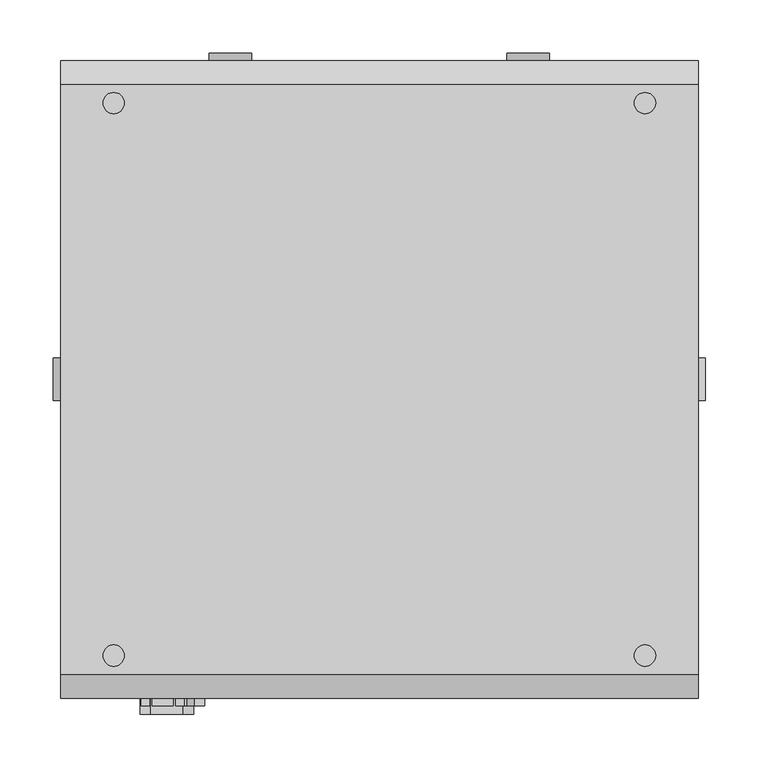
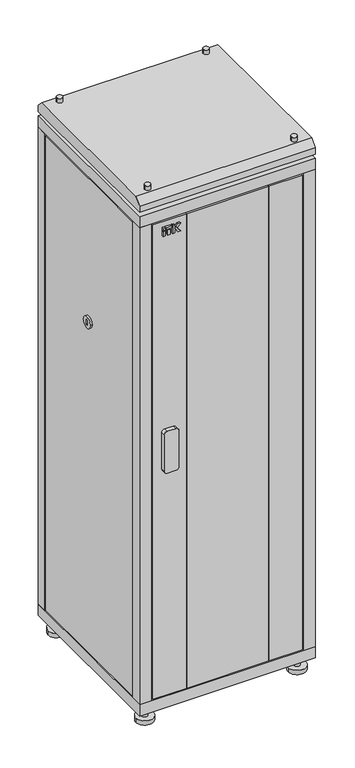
"""IFC4 building model written with IfcOpenShell, lengths in millimetres: proxy geometry, Шкафы ITK серия N_05 : LN05-38U66-G."""

from ifc_helpers import new_model, si_unit, point, frame, frame_2d, origin, origin_with_axes, place, context, project, spatial, polyline, circle_curve, trimmed, segment, composite_curve, outline, extrude, faceted_brep, source, transform, mapped, element, save
from ifc_brep_helpers import plane_surface, cylinder_surface, advanced_brep


def electrical_fixtures_70bab674(model_context):
    return source(origin(), model_context, "Body", "SolidModel", [
        extrude(outline(polyline([(-215.9746193, -307.0), (-224.197592, -307.0), (-224.197592, -300.0), (-215.9746193, -300.0), (-215.9746193, -307.0)])), frame((0.0, 0.0, 1757.0), z_axis=(0.0, 0.0, 1.0), x_axis=(1.0, 0.0, 0.0)), (0.0, 0.0, 1.0), 18.8087618),
        extrude(outline(polyline([(-199.9605777, -307.0), (-207.7053315, -307.0), (-207.7053315, -300.0), (-199.9605777, -300.0), (-199.9605777, -307.0)])), frame((0.0, 0.0, 1757.0), z_axis=(0.0, 0.0, 1.0), x_axis=(1.0, 0.0, 0.0)), (0.0, 0.0, 1.0), 18.8087618),
        extrude(outline(polyline([(-215.9746193, -307.0), (-224.197592, -307.0), (-224.197592, -300.0), (-215.9746193, -300.0), (-215.9746193, -307.0)])), frame((0.0, 0.0, 1778.4305892), z_axis=(0.0, 0.0, 1.0), x_axis=(1.0, 0.0, 0.0)), (0.0, 0.0, 1.0), 7.9794747),
        extrude(outline(polyline([(1757.0, -191.5184175), (1757.0, -183.7669278), (1768.0271455, -183.7669278), (1768.0271455, -180.8031229), (1757.0, -173.6420108), (1757.0, -164.197592), (1771.7278745, -174.8980192), (1786.410064, -164.197592), (1786.410064, -173.6420108), (1775.3829184, -180.8031229), (1775.3829184, -183.7669278), (1786.410064, -183.7669278), (1786.410064, -191.5184175), (1757.0, -191.5184175)])), frame((0.0, -307.0, 0.0), z_axis=(0.0, 1.0, 0.0), x_axis=(0.0, 0.0, 1.0)), (0.0, 0.0, 1.0), 7.0),
        extrude(outline(polyline([(-194.0851324, -307.0), (-213.5807768, -307.0), (-213.5807768, -300.0), (-194.0851324, -300.0), (-194.0851324, -307.0)])), frame((0.0, 0.0, 1778.4305892), z_axis=(0.0, 0.0, 1.0), x_axis=(1.0, 0.0, 0.0)), (0.0, 0.0, 1.0), 7.9794747),
        extrude(outline(composite_curve([segment(polyline([(1056.0, -185.0), (1056.0, -215.0)]), True, "CONTINUOUS"), segment(trimmed(circle_curve(frame_2d((1046.0, -215.0)), 10.0), [point((1056.0, -215.0))], [point((1046.0, -225.0))], False, "CARTESIAN"), True, "CONTINUOUS"), segment(polyline([(1046.0, -225.0), (916.0, -225.0)]), True, "CONTINUOUS"), segment(trimmed(circle_curve(frame_2d((916.0, -215.0)), 10.0), [point((916.0, -225.0))], [point((906.0, -215.0))], False, "CARTESIAN"), True, "CONTINUOUS"), segment(polyline([(906.0, -215.0), (906.0, -185.0)]), True, "CONTINUOUS"), segment(trimmed(circle_curve(frame_2d((916.0, -185.0)), 10.0), [point((906.0, -185.0))], [point((916.0, -175.0))], False, "CARTESIAN"), True, "CONTINUOUS"), segment(polyline([(916.0, -175.0), (1046.0, -175.0)]), True, "CONTINUOUS"), segment(trimmed(circle_curve(frame_2d((1046.0, -185.0)), 10.0), [point((1046.0, -175.0))], [point((1056.0, -185.0))], False, "CARTESIAN"), True, "CONTINUOUS")], self_intersect=False)), frame((0.0, -315.0, 0.0), z_axis=(0.0, 1.0, 0.0), x_axis=(0.0, 0.0, 1.0)), (0.0, 0.0, 1.0), 15.0),
        extrude(outline(polyline([(140.0, -280.0), (140.0, -300.0), (-140.0, -300.0), (-140.0, -280.0), (140.0, -280.0)])), frame((0.0, 0.0, 95.0), z_axis=(0.0, 0.0, 1.0), x_axis=(1.0, 0.0, 0.0)), (0.0, 0.0, 1.0), 1712.0),
        extrude(outline(polyline([(255.0, -280.0), (255.0, -300.0), (140.0, -300.0), (140.0, -280.0), (235.0, -280.0), (235.0, -265.0), (245.0, -265.0), (245.0, -280.0), (255.0, -280.0)])), frame((0.0, 0.0, 95.0), z_axis=(0.0, 0.0, 1.0), x_axis=(1.0, 0.0, 0.0)), (0.0, 0.0, 1.0), 1712.0),
        extrude(outline(polyline([(-140.0, -300.0), (-255.0, -300.0), (-255.0, -280.0), (-245.0, -280.0), (-245.0, -265.0), (-235.0, -265.0), (-235.0, -280.0), (-140.0, -280.0), (-140.0, -300.0)])), frame((0.0, 0.0, 95.0), z_axis=(0.0, 0.0, 1.0), x_axis=(1.0, 0.0, 0.0)), (0.0, 0.0, 1.0), 1712.0),
        extrude(outline(composite_curve([segment(trimmed(circle_curve(frame_2d((-260.0, 260.0)), 10.0), [point((-250.0, 260.0))], [point((-270.0, 260.0))], False, "CARTESIAN"), True, "CONTINUOUS"), segment(trimmed(circle_curve(frame_2d((-260.0, 260.0)), 10.0), [point((-270.0, 260.0))], [point((-250.0, 260.0))], False, "CARTESIAN"), True, "CONTINUOUS")], self_intersect=False)), frame((0.0, 0.0, 15.0), z_axis=(0.0, 0.0, 1.0), x_axis=(1.0, 0.0, 0.0)), (0.0, 0.0, 1.0), 35.0),
        extrude(outline(composite_curve([segment(trimmed(circle_curve(frame_2d((260.0, 260.0)), 10.0), [point((270.0, 260.0))], [point((250.0, 260.0))], False, "CARTESIAN"), True, "CONTINUOUS"), segment(trimmed(circle_curve(frame_2d((260.0, 260.0)), 10.0), [point((250.0, 260.0))], [point((270.0, 260.0))], False, "CARTESIAN"), True, "CONTINUOUS")], self_intersect=False)), frame((0.0, 0.0, 15.0), z_axis=(0.0, 0.0, 1.0), x_axis=(1.0, 0.0, 0.0)), (0.0, 0.0, 1.0), 35.0),
        extrude(outline(composite_curve([segment(trimmed(circle_curve(frame_2d((-260.0, -260.0)), 10.0), [point((-250.0, -260.0))], [point((-270.0, -260.0))], False, "CARTESIAN"), True, "CONTINUOUS"), segment(trimmed(circle_curve(frame_2d((-260.0, -260.0)), 10.0), [point((-270.0, -260.0))], [point((-250.0, -260.0))], False, "CARTESIAN"), True, "CONTINUOUS")], self_intersect=False)), frame((0.0, 0.0, 15.0), z_axis=(0.0, 0.0, 1.0), x_axis=(1.0, 0.0, 0.0)), (0.0, 0.0, 1.0), 35.0),
        extrude(outline(composite_curve([segment(trimmed(circle_curve(frame_2d((260.0, -260.0)), 10.0), [point((270.0, -260.0))], [point((250.0, -260.0))], False, "CARTESIAN"), True, "CONTINUOUS"), segment(trimmed(circle_curve(frame_2d((260.0, -260.0)), 10.0), [point((250.0, -260.0))], [point((270.0, -260.0))], False, "CARTESIAN"), True, "CONTINUOUS")], self_intersect=False)), frame((0.0, 0.0, 15.0), z_axis=(0.0, 0.0, 1.0), x_axis=(1.0, 0.0, 0.0)), (0.0, 0.0, 1.0), 35.0),
        extrude(outline(composite_curve([segment(trimmed(circle_curve(frame_2d((-260.0, 260.0)), 30.0), [point((-230.0, 260.0))], [point((-290.0, 260.0))], False, "CARTESIAN"), True, "CONTINUOUS"), segment(trimmed(circle_curve(frame_2d((-260.0, 260.0)), 30.0), [point((-290.0, 260.0))], [point((-230.0, 260.0))], False, "CARTESIAN"), True, "CONTINUOUS")], self_intersect=False)), origin_with_axes(), (0.0, 0.0, 1.0), 15.0),
        extrude(outline(composite_curve([segment(trimmed(circle_curve(frame_2d((260.0, 260.0)), 30.0), [point((290.0, 260.0))], [point((230.0, 260.0))], False, "CARTESIAN"), True, "CONTINUOUS"), segment(trimmed(circle_curve(frame_2d((260.0, 260.0)), 30.0), [point((230.0, 260.0))], [point((290.0, 260.0))], False, "CARTESIAN"), True, "CONTINUOUS")], self_intersect=False)), origin_with_axes(), (0.0, 0.0, 1.0), 15.0),
        extrude(outline(composite_curve([segment(trimmed(circle_curve(frame_2d((-260.0, -260.0)), 30.0), [point((-230.0, -260.0))], [point((-290.0, -260.0))], False, "CARTESIAN"), True, "CONTINUOUS"), segment(trimmed(circle_curve(frame_2d((-260.0, -260.0)), 30.0), [point((-290.0, -260.0))], [point((-230.0, -260.0))], False, "CARTESIAN"), True, "CONTINUOUS")], self_intersect=False)), origin_with_axes(), (0.0, 0.0, 1.0), 15.0),
        extrude(outline(composite_curve([segment(trimmed(circle_curve(frame_2d((260.0, -260.0)), 30.0), [point((290.0, -260.0))], [point((230.0, -260.0))], False, "CARTESIAN"), True, "CONTINUOUS"), segment(trimmed(circle_curve(frame_2d((260.0, -260.0)), 30.0), [point((230.0, -260.0))], [point((290.0, -260.0))], False, "CARTESIAN"), True, "CONTINUOUS")], self_intersect=False)), origin_with_axes(), (0.0, 0.0, 1.0), 15.0),
        advanced_brep(
        [(260.0, 260.0, 1927.0), (240.0, 260.0, 1927.0), (260.0, -260.0, 1927.0), (240.0, -260.0, 1927.0), (-240.0, 260.0, 1927.0), (-260.0, 260.0, 1927.0), (-240.0, -260.0, 1927.0), (-260.0, -260.0, 1927.0), (260.0, 260.0, 1852.0), (240.0, 260.0, 1852.0), (260.0, -260.0, 1852.0), (240.0, -260.0, 1852.0), (-240.0, 260.0, 1852.0), (-260.0, 260.0, 1852.0), (-240.0, -260.0, 1852.0), (-260.0, -260.0, 1852.0), (260.0, 260.0, 1912.0), (240.0, 260.0, 1912.0), (240.0, 260.0, 1867.0), (260.0, 260.0, 1867.0), (260.0, -260.0, 1912.0), (240.0, -260.0, 1912.0), (240.0, -260.0, 1867.0), (260.0, -260.0, 1867.0), (-240.0, 260.0, 1912.0), (-260.0, 260.0, 1912.0), (-260.0, 260.0, 1867.0), (-240.0, 260.0, 1867.0), (-240.0, -260.0, 1912.0), (-260.0, -260.0, 1912.0), (-260.0, -260.0, 1867.0), (-240.0, -260.0, 1867.0), (300.0, 277.5, 1912.0), (300.0, -277.5, 1912.0), (300.0, -300.0, 1889.5), (300.0, -300.0, 1867.0), (300.0, 300.0, 1867.0), (300.0, 300.0, 1889.5), (-300.0, 277.5, 1912.0), (-300.0, 300.0, 1889.5), (-300.0, 300.0, 1867.0), (-300.0, -300.0, 1867.0), (-300.0, -300.0, 1889.5), (-300.0, -277.5, 1912.0)],
        [
            (0, 1, circle_curve(frame((250.0, 260.0, 1927.0), z_axis=(0.0, 0.0, 1.0), x_axis=(-1.0, 0.0, 0.0)), 10.0)),
            (1, 0, circle_curve(frame((250.0, 260.0, 1927.0), z_axis=(0.0, 0.0, 1.0), x_axis=(-1.0, 0.0, 0.0)), 10.0)),
            (2, 3, circle_curve(frame((250.0, -260.0, 1927.0), z_axis=(0.0, 0.0, 1.0), x_axis=(-1.0, 0.0, 0.0)), 10.0)),
            (3, 2, circle_curve(frame((250.0, -260.0, 1927.0), z_axis=(0.0, 0.0, 1.0), x_axis=(-1.0, 0.0, 0.0)), 10.0)),
            (4, 5, circle_curve(frame((-250.0, 260.0, 1927.0), z_axis=(0.0, 0.0, 1.0), x_axis=(-1.0, 0.0, 0.0)), 10.0)),
            (5, 4, circle_curve(frame((-250.0, 260.0, 1927.0), z_axis=(0.0, 0.0, 1.0), x_axis=(-1.0, 0.0, 0.0)), 10.0)),
            (6, 7, circle_curve(frame((-250.0, -260.0, 1927.0), z_axis=(0.0, 0.0, 1.0), x_axis=(-1.0, 0.0, 0.0)), 10.0)),
            (7, 6, circle_curve(frame((-250.0, -260.0, 1927.0), z_axis=(0.0, 0.0, 1.0), x_axis=(-1.0, 0.0, 0.0)), 10.0)),
            (8, 9, circle_curve(frame((250.0, 260.0, 1852.0), z_axis=(0.0, 0.0, -1.0), x_axis=(-1.0, 0.0, 0.0)), 10.0)),
            (9, 8, circle_curve(frame((250.0, 260.0, 1852.0), z_axis=(0.0, 0.0, -1.0), x_axis=(-1.0, 0.0, 0.0)), 10.0)),
            (10, 11, circle_curve(frame((250.0, -260.0, 1852.0), z_axis=(0.0, 0.0, -1.0), x_axis=(-1.0, 0.0, 0.0)), 10.0)),
            (11, 10, circle_curve(frame((250.0, -260.0, 1852.0), z_axis=(0.0, 0.0, -1.0), x_axis=(-1.0, 0.0, 0.0)), 10.0)),
            (12, 13, circle_curve(frame((-250.0, 260.0, 1852.0), z_axis=(0.0, 0.0, -1.0), x_axis=(-1.0, 0.0, 0.0)), 10.0)),
            (13, 12, circle_curve(frame((-250.0, 260.0, 1852.0), z_axis=(0.0, 0.0, -1.0), x_axis=(-1.0, 0.0, 0.0)), 10.0)),
            (14, 15, circle_curve(frame((-250.0, -260.0, 1852.0), z_axis=(0.0, 0.0, -1.0), x_axis=(-1.0, 0.0, 0.0)), 10.0)),
            (15, 14, circle_curve(frame((-250.0, -260.0, 1852.0), z_axis=(0.0, 0.0, -1.0), x_axis=(-1.0, 0.0, 0.0)), 10.0)),
            (0, 16),
            (16, 17, circle_curve(frame((250.0, 260.0, 1912.0), z_axis=(0.0, 0.0, 1.0), x_axis=(-1.0, 0.0, 0.0)), 10.0)),
            (17, 1),
            (9, 18),
            (18, 19, circle_curve(frame((250.0, 260.0, 1867.0), z_axis=(0.0, 0.0, -1.0), x_axis=(-1.0, 0.0, 0.0)), 10.0)),
            (19, 8),
            (17, 16, circle_curve(frame((250.0, 260.0, 1912.0), z_axis=(0.0, 0.0, 1.0), x_axis=(-1.0, 0.0, 0.0)), 10.0)),
            (19, 18, circle_curve(frame((250.0, 260.0, 1867.0), z_axis=(0.0, 0.0, -1.0), x_axis=(-1.0, 0.0, 0.0)), 10.0)),
            (2, 20),
            (20, 21, circle_curve(frame((250.0, -260.0, 1912.0), z_axis=(0.0, 0.0, 1.0), x_axis=(-1.0, 0.0, 0.0)), 10.0)),
            (21, 3),
            (11, 22),
            (22, 23, circle_curve(frame((250.0, -260.0, 1867.0), z_axis=(0.0, 0.0, -1.0), x_axis=(-1.0, 0.0, 0.0)), 10.0)),
            (23, 10),
            (21, 20, circle_curve(frame((250.0, -260.0, 1912.0), z_axis=(0.0, 0.0, 1.0), x_axis=(-1.0, 0.0, 0.0)), 10.0)),
            (23, 22, circle_curve(frame((250.0, -260.0, 1867.0), z_axis=(0.0, 0.0, -1.0), x_axis=(-1.0, 0.0, 0.0)), 10.0)),
            (4, 24),
            (24, 25, circle_curve(frame((-250.0, 260.0, 1912.0), z_axis=(0.0, 0.0, 1.0), x_axis=(-1.0, 0.0, 0.0)), 10.0)),
            (25, 5),
            (13, 26),
            (26, 27, circle_curve(frame((-250.0, 260.0, 1867.0), z_axis=(0.0, 0.0, -1.0), x_axis=(-1.0, 0.0, 0.0)), 10.0)),
            (27, 12),
            (25, 24, circle_curve(frame((-250.0, 260.0, 1912.0), z_axis=(0.0, 0.0, 1.0), x_axis=(-1.0, 0.0, 0.0)), 10.0)),
            (27, 26, circle_curve(frame((-250.0, 260.0, 1867.0), z_axis=(0.0, 0.0, -1.0), x_axis=(-1.0, 0.0, 0.0)), 10.0)),
            (6, 28),
            (28, 29, circle_curve(frame((-250.0, -260.0, 1912.0), z_axis=(0.0, 0.0, 1.0), x_axis=(-1.0, 0.0, 0.0)), 10.0)),
            (29, 7),
            (15, 30),
            (30, 31, circle_curve(frame((-250.0, -260.0, 1867.0), z_axis=(0.0, 0.0, -1.0), x_axis=(-1.0, 0.0, 0.0)), 10.0)),
            (31, 14),
            (29, 28, circle_curve(frame((-250.0, -260.0, 1912.0), z_axis=(0.0, 0.0, 1.0), x_axis=(-1.0, 0.0, 0.0)), 10.0)),
            (31, 30, circle_curve(frame((-250.0, -260.0, 1867.0), z_axis=(0.0, 0.0, -1.0), x_axis=(-1.0, 0.0, 0.0)), 10.0)),
            (32, 33),
            (33, 34),
            (34, 35),
            (35, 36),
            (36, 37),
            (37, 32),
            (38, 39),
            (39, 40),
            (40, 41),
            (41, 42),
            (42, 43),
            (43, 38),
            (32, 38),
            (43, 33),
            (42, 34),
            (41, 35),
            (40, 36),
            (39, 37),
        ],
        [
            plane_surface(frame((240.0, 260.0, 1927.0), z_axis=(0.0, 0.0, 1.0), x_axis=(0.0, -1.0, 0.0))),
            plane_surface(frame((240.0, 260.0, 1852.0), z_axis=(0.0, 0.0, -1.0), x_axis=(0.0, 1.0, 0.0))),
            cylinder_surface(frame((250.0, 260.0, 1852.0), z_axis=(0.0, 0.0, 1.0), x_axis=(-1.0, 0.0, 0.0)), 10.0),
            cylinder_surface(frame((250.0, -260.0, 1710.0), z_axis=(0.0, 0.0, 1.0), x_axis=(-1.0, 0.0, 0.0)), 10.0),
            cylinder_surface(frame((-250.0, 260.0, 1710.0), z_axis=(0.0, 0.0, 1.0), x_axis=(-1.0, 0.0, 0.0)), 10.0),
            cylinder_surface(frame((-250.0, -260.0, 1710.0), z_axis=(0.0, 0.0, 1.0), x_axis=(-1.0, 0.0, 0.0)), 10.0),
            plane_surface(frame((300.0, -277.5, 1912.0), z_axis=(1.0, 0.0, 0.0), x_axis=(0.0, -1.0, 0.0))),
            plane_surface(frame((-300.0, -277.5, 1912.0), z_axis=(-1.0, 0.0, 0.0), x_axis=(0.0, 1.0, 0.0))),
            plane_surface(frame((300.0, 277.5, 1912.0), z_axis=(0.0, 0.0, 1.0), x_axis=(-1.0, 0.0, 0.0))),
            plane_surface(frame((300.0, -277.5, 1912.0), z_axis=(0.0, -0.7071067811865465, 0.7071067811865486), x_axis=(-1.0, 0.0, 0.0))),
            plane_surface(frame((300.0, -300.0, 1889.5), z_axis=(0.0, -1.0, 0.0), x_axis=(-1.0, 0.0, 0.0))),
            plane_surface(frame((300.0, -300.0, 1867.0), z_axis=(0.0, 0.0, -1.0), x_axis=(-1.0, 0.0, 0.0))),
            plane_surface(frame((300.0, 300.0, 1867.0), z_axis=(0.0, 1.0, 0.0), x_axis=(-1.0, 0.0, 0.0))),
            plane_surface(frame((300.0, 300.0, 1889.5), z_axis=(0.0, 0.7071067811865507, 0.7071067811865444), x_axis=(-1.0, 0.0, 0.0))),
        ],
        [
            (0, [[1, 2]]),
            (0, [[3, 4]]),
            (0, [[5, 6]]),
            (0, [[7, 8]]),
            (1, [[9, 10]]),
            (1, [[11, 12]]),
            (1, [[13, 14]]),
            (1, [[15, 16]]),
            (2, [[-1, 17, 18, 19]]),
            (2, [[-10, 20, 21, 22]]),
            (2, [[-2, -19, 23, -17]]),
            (2, [[-9, -22, 24, -20]]),
            (3, [[-3, 25, 26, 27]]),
            (3, [[-12, 28, 29, 30]]),
            (3, [[-4, -27, 31, -25]]),
            (3, [[-11, -30, 32, -28]]),
            (4, [[-5, 33, 34, 35]]),
            (4, [[-14, 36, 37, 38]]),
            (4, [[-6, -35, 39, -33]]),
            (4, [[-13, -38, 40, -36]]),
            (5, [[-7, 41, 42, 43]]),
            (5, [[-16, 44, 45, 46]]),
            (5, [[-8, -43, 47, -41]]),
            (5, [[-15, -46, 48, -44]]),
            (6, [[49, 50, 51, 52, 53, 54]]),
            (7, [[55, 56, 57, 58, 59, 60]]),
            (8, [[-49, 61, -60, 62], [-18, -23], [-26, -31], [-34, -39], [-42, -47]]),
            (9, [[-50, -62, -59, 63]]),
            (10, [[-51, -63, -58, 64]]),
            (11, [[-52, -64, -57, 65], [-21, -24], [-29, -32], [-37, -40], [-45, -48]]),
            (12, [[-53, -65, -56, 66]]),
            (13, [[-54, -66, -55, -61]]),
        ],
    ),
        extrude(outline(polyline([(260.0, 260.0), (260.0, 245.0), (290.0, 245.0), (290.0, -245.0), (260.0, -245.0), (260.0, -260.0), (245.0, -260.0), (245.0, -280.0), (-245.0, -280.0), (-245.0, -260.0), (-260.0, -260.0), (-260.0, -245.0), (-290.0, -245.0), (-290.0, 245.0), (-260.0, 245.0), (-260.0, 260.0), (-245.0, 260.0), (-245.0, 290.0), (245.0, 290.0), (245.0, 260.0), (260.0, 260.0)])), frame((0.0, 0.0, 90.0), z_axis=(0.0, 0.0, 1.0), x_axis=(1.0, 0.0, 0.0)), (0.0, 0.0, 1.0), 5.0),
        extrude(outline(polyline([(260.0, 260.0), (260.0, 245.0), (290.0, 245.0), (290.0, -245.0), (260.0, -245.0), (260.0, -260.0), (245.0, -260.0), (245.0, -280.0), (-245.0, -280.0), (-245.0, -260.0), (-260.0, -260.0), (-260.0, -245.0), (-290.0, -245.0), (-290.0, 245.0), (-260.0, 245.0), (-260.0, 260.0), (-245.0, 260.0), (-245.0, 290.0), (245.0, 290.0), (245.0, 260.0), (260.0, 260.0)])), frame((0.0, 0.0, 1807.0), z_axis=(0.0, 0.0, 1.0), x_axis=(1.0, 0.0, 0.0)), (0.0, 0.0, 1.0), 5.0),
        extrude(outline(polyline([(300.0, -300.0), (-300.0, -300.0), (-300.0, 300.0), (300.0, 300.0), (300.0, -300.0)])), frame((0.0, 0.0, 1812.0), z_axis=(0.0, 0.0, 1.0), x_axis=(1.0, 0.0, 0.0)), (0.0, 0.0, 1.0), 40.0),
        extrude(outline(polyline([(300.0, -300.0), (-300.0, -300.0), (-300.0, 300.0), (300.0, 300.0), (300.0, -300.0)])), frame((0.0, 0.0, 50.0), z_axis=(0.0, 0.0, 1.0), x_axis=(1.0, 0.0, 0.0)), (0.0, 0.0, 1.0), 40.0),
        extrude(outline(composite_curve([segment(trimmed(circle_curve(frame_2d((951.0, 140.0)), 20.0), [point((951.0, 160.0))], [point((951.0, 120.0))], False, "CARTESIAN"), True, "CONTINUOUS"), segment(trimmed(circle_curve(frame_2d((951.0, 140.0)), 20.0), [point((951.0, 120.0))], [point((951.0, 160.0))], False, "CARTESIAN"), True, "CONTINUOUS")], self_intersect=False), holes=[polyline([(942.7814397, 137.0), (959.2185603, 137.0), (959.2185603, 143.0), (942.7814397, 143.0), (942.7814397, 137.0)])]), frame((0.0, 300.0, 0.0), z_axis=(0.0, 1.0, 0.0), x_axis=(0.0, 0.0, 1.0)), (0.0, 0.0, 1.0), 7.0),
        extrude(outline(composite_curve([segment(trimmed(circle_curve(frame_2d((951.0, -140.0)), 20.0), [point((951.0, -120.0))], [point((951.0, -160.0))], False, "CARTESIAN"), True, "CONTINUOUS"), segment(trimmed(circle_curve(frame_2d((951.0, -140.0)), 20.0), [point((951.0, -160.0))], [point((951.0, -120.0))], False, "CARTESIAN"), True, "CONTINUOUS")], self_intersect=False), holes=[polyline([(942.7814397, -143.0), (959.2185603, -143.0), (959.2185603, -137.0), (942.7814397, -137.0), (942.7814397, -143.0)])]), frame((0.0, 300.0, 0.0), z_axis=(0.0, 1.0, 0.0), x_axis=(0.0, 0.0, 1.0)), (0.0, 0.0, 1.0), 7.0),
        faceted_brep([(255.0, 300.0, 1807.0), (-255.0, 300.0, 1807.0), (-255.0, 270.0, 1807.0), (-245.0, 270.0, 1807.0), (-245.0, 290.0, 1807.0), (245.0, 290.0, 1807.0), (245.0, 270.0, 1807.0), (255.0, 270.0, 1807.0), (255.0, 300.0, 95.0), (255.0, 270.0, 95.0), (245.0, 270.0, 95.0), (245.0, 290.0, 95.0), (-245.0, 290.0, 95.0), (-245.0, 270.0, 95.0), (-255.0, 270.0, 95.0), (-255.0, 300.0, 95.0), (255.0, 300.0, 1634.5265979), (-255.0, 300.0, 1634.5265979), (175.0, 300.0, 1682.0), (175.0, 300.0, 1762.0), (-175.0, 300.0, 1762.0), (-175.0, 300.0, 1682.0), (-255.0, 300.0, 267.4734021), (255.0, 300.0, 267.4734021), (175.0, 300.0, 220.0), (-175.0, 300.0, 220.0), (-175.0, 300.0, 140.0), (175.0, 300.0, 140.0), (255.0, 300.0, 1629.4734021), (255.0, 300.0, 272.5265979), (-255.0, 300.0, 272.5265979), (-255.0, 300.0, 1629.4734021), (-170.0, 300.0, 215.0), (170.0, 300.0, 215.0), (170.0, 300.0, 145.0), (-170.0, 300.0, 145.0), (-170.0, 300.0, 1687.0), (-170.0, 300.0, 1757.0), (170.0, 300.0, 1757.0), (170.0, 300.0, 1687.0), (-255.0, 293.0, 1634.5265979), (-255.0, 293.0, 1629.4734021), (-255.0, 293.0, 272.5265979), (-255.0, 293.0, 267.4734021), (255.0, 293.0, 267.4734021), (255.0, 293.0, 272.5265979), (255.0, 293.0, 1629.4734021), (255.0, 293.0, 1634.5265979), (175.0, 293.0, 220.0), (175.0, 293.0, 140.0), (-175.0, 293.0, 140.0), (-175.0, 293.0, 220.0), (-170.0, 293.0, 215.0), (-170.0, 293.0, 145.0), (170.0, 293.0, 145.0), (170.0, 293.0, 215.0), (175.0, 293.0, 1682.0), (-175.0, 293.0, 1682.0), (-175.0, 293.0, 1762.0), (175.0, 293.0, 1762.0), (-170.0, 293.0, 1687.0), (170.0, 293.0, 1687.0), (170.0, 293.0, 1757.0), (-170.0, 293.0, 1757.0)], [[[0, 1, 2, 3, 4, 5, 6, 7]], [[8, 9, 10, 11, 12, 13, 14, 15]], [[1, 0, 16, 17], [18, 19, 20, 21]], [[8, 15, 22, 23], [24, 25, 26, 27]], [[28, 29, 30, 31]], [[32, 33, 34, 35]], [[36, 37, 38, 39]], [[2, 1, 17, 40, 41, 31, 30, 42, 43, 22, 15, 14]], [[3, 2, 14, 13]], [[4, 3, 13, 12]], [[5, 4, 12, 11]], [[6, 5, 11, 10]], [[7, 6, 10, 9]], [[0, 7, 9, 8, 23, 44, 45, 29, 28, 46, 47, 16]], [[44, 43, 42, 45]], [[48, 49, 50, 51], [52, 53, 54, 55]], [[46, 41, 40, 47]], [[56, 57, 58, 59], [60, 61, 62, 63]], [[45, 42, 30, 29]], [[43, 44, 23, 22]], [[48, 51, 25, 24]], [[51, 50, 26, 25]], [[50, 49, 27, 26]], [[49, 48, 24, 27]], [[52, 55, 33, 32]], [[55, 54, 34, 33]], [[54, 53, 35, 34]], [[53, 52, 32, 35]], [[47, 40, 17, 16]], [[41, 46, 28, 31]], [[56, 59, 19, 18]], [[59, 58, 20, 19]], [[58, 57, 21, 20]], [[57, 56, 18, 21]], [[60, 63, 37, 36]], [[63, 62, 38, 37]], [[62, 61, 39, 38]], [[61, 60, 36, 39]]]),
        extrude(outline(composite_curve([segment(trimmed(circle_curve(frame_2d((0.0, 1291.3333333)), 20.0), [point((-20.0, 1291.3333333))], [point((20.0, 1291.3333333))], False, "CARTESIAN"), True, "CONTINUOUS"), segment(trimmed(circle_curve(frame_2d((0.0, 1291.3333333)), 20.0), [point((20.0, 1291.3333333))], [point((-20.0, 1291.3333333))], False, "CARTESIAN"), True, "CONTINUOUS")], self_intersect=False), holes=[polyline([(3.0, 1283.114773), (3.0, 1299.5518937), (-3.0, 1299.5518937), (-3.0, 1283.114773), (3.0, 1283.114773)])]), frame((300.0, 0.0, 0.0), z_axis=(1.0, 0.0, 0.0), x_axis=(0.0, 1.0, 0.0)), (0.0, 0.0, 1.0), 7.0),
        extrude(outline(composite_curve([segment(trimmed(circle_curve(frame_2d((0.0, 1291.3333333)), 20.0), [point((20.0, 1291.3333333))], [point((-20.0, 1291.3333333))], False, "CARTESIAN"), True, "CONTINUOUS"), segment(trimmed(circle_curve(frame_2d((0.0, 1291.3333333)), 20.0), [point((-20.0, 1291.3333333))], [point((20.0, 1291.3333333))], False, "CARTESIAN"), True, "CONTINUOUS")], self_intersect=False), holes=[polyline([(-3.0, 1283.114773), (3.0, 1283.114773), (3.0, 1299.5518937), (-3.0, 1299.5518937), (-3.0, 1283.114773)])]), frame((-307.0, 0.0, 0.0), z_axis=(1.0, 0.0, 0.0), x_axis=(0.0, 1.0, 0.0)), (0.0, 0.0, 1.0), 7.0),
        extrude(outline(polyline([(-270.0, 255.0), (-270.0, 245.0), (-289.9803177, 245.0), (-289.9803177, -245.0), (-269.9803177, -245.0), (-269.9803177, -255.0), (-300.0, -255.0), (-300.0, 255.0), (-270.0, 255.0)])), frame((0.0, 0.0, 95.0), z_axis=(0.0, 0.0, 1.0), x_axis=(1.0, 0.0, 0.0)), (0.0, 0.0, 1.0), 1712.0),
        extrude(outline(polyline([(269.9803177, 255.0), (300.0, 255.0), (300.0, -255.0), (269.9803177, -255.0), (269.9803177, -245.0), (289.9803177, -245.0), (289.9803177, 245.0), (269.9803177, 245.0), (269.9803177, 255.0)])), frame((0.0, 0.0, 95.0), z_axis=(0.0, 0.0, 1.0), x_axis=(1.0, 0.0, 0.0)), (0.0, 0.0, 1.0), 1712.0),
        extrude(outline(polyline([(-270.0, -260.0), (-270.0, -245.0), (-260.0, -245.0), (-260.0, -260.0), (-245.0, -260.0), (-245.0, -280.0), (-260.0, -280.0), (-260.0, -300.0), (-300.0, -300.0), (-300.0, -260.0), (-270.0, -260.0)]), holes=[polyline([(-267.0, -263.0), (-297.0, -263.0), (-297.0, -297.0), (-263.0, -297.0), (-263.0, -277.0), (-248.0, -277.0), (-248.0, -263.0), (-263.0, -263.0), (-263.0, -248.0), (-267.0, -248.0), (-267.0, -263.0)])]), frame((0.0, 0.0, 90.0), z_axis=(0.0, 0.0, 1.0), x_axis=(1.0, 0.0, 0.0)), (0.0, 0.0, 1.0), 1722.0),
        extrude(outline(polyline([(270.0, -260.0), (300.0, -260.0), (300.0, -300.0), (260.0, -300.0), (260.0, -280.0), (245.0, -280.0), (245.0, -260.0), (260.0, -260.0), (260.0, -245.0), (270.0, -245.0), (270.0, -260.0)]), holes=[polyline([(297.0, -297.0), (297.0, -263.0), (267.0, -263.0), (267.0, -248.0), (263.0, -248.0), (263.0, -263.0), (248.0, -263.0), (248.0, -277.0), (263.0, -277.0), (263.0, -297.0), (297.0, -297.0)])]), frame((0.0, 0.0, 90.0), z_axis=(0.0, 0.0, 1.0), x_axis=(1.0, 0.0, 0.0)), (0.0, 0.0, 1.0), 1722.0),
        extrude(outline(polyline([(270.0, 260.0), (270.0, 245.0), (260.0, 245.0), (260.0, 260.0), (245.0, 260.0), (245.0, 270.0), (260.0, 270.0), (260.0, 300.0), (300.0, 300.0), (300.0, 260.0), (270.0, 260.0)]), holes=[polyline([(297.0, 263.0), (297.0, 297.0), (263.0, 297.0), (263.0, 267.0), (248.0, 267.0), (248.0, 263.0), (263.0, 263.0), (263.0, 248.0), (267.0, 248.0), (267.0, 263.0), (297.0, 263.0)])]), frame((0.0, 0.0, 90.0), z_axis=(0.0, 0.0, 1.0), x_axis=(1.0, 0.0, 0.0)), (0.0, 0.0, 1.0), 1722.0),
        extrude(outline(polyline([(-270.0, 260.0), (-300.0, 260.0), (-300.0, 300.0), (-260.0, 300.0), (-260.0, 270.0), (-245.0, 270.0), (-245.0, 260.0), (-260.0, 260.0), (-260.0, 245.0), (-270.0, 245.0), (-270.0, 260.0)]), holes=[polyline([(-297.0, 297.0), (-297.0, 263.0), (-267.0, 263.0), (-267.0, 248.0), (-263.0, 248.0), (-263.0, 263.0), (-248.0, 263.0), (-248.0, 267.0), (-263.0, 267.0), (-263.0, 297.0), (-297.0, 297.0)])]), frame((0.0, 0.0, 90.0), z_axis=(0.0, 0.0, 1.0), x_axis=(1.0, 0.0, 0.0)), (0.0, 0.0, 1.0), 1722.0),
    ])


if __name__ == "__main__":
    model = new_model("IFC4")
    model_context = context("Model", 3, world=origin())
    ifc_project = project(units=[si_unit("LENGTHUNIT", "METRE", prefix="MILLI")], contexts=[model_context])
    site = spatial("IfcSite", under=ifc_project)
    building = spatial("IfcBuilding", under=site)
    placement = place(None, origin())
    electrical_fixtures_shape = electrical_fixtures_70bab674(model_context)
    element("IfcBuildingElementProxy", 1, Name="Шкафы ITK серия N_05 : LN05-38U66-G", ObjectType="Шкафы ITK серия N_05 : LN05-38U66-G", at=placement, inside=building, context=model_context, shape_type="MappedRepresentation", body=[
        mapped(electrical_fixtures_shape, transform((0.0, 0.0, 0.0), x_axis=(1.0, 0.0, 0.0), y_axis=(0.0, 1.0, 0.0), z_axis=(0.0, 0.0, 1.0))),
    ])
    save(model, "model.ifc")
